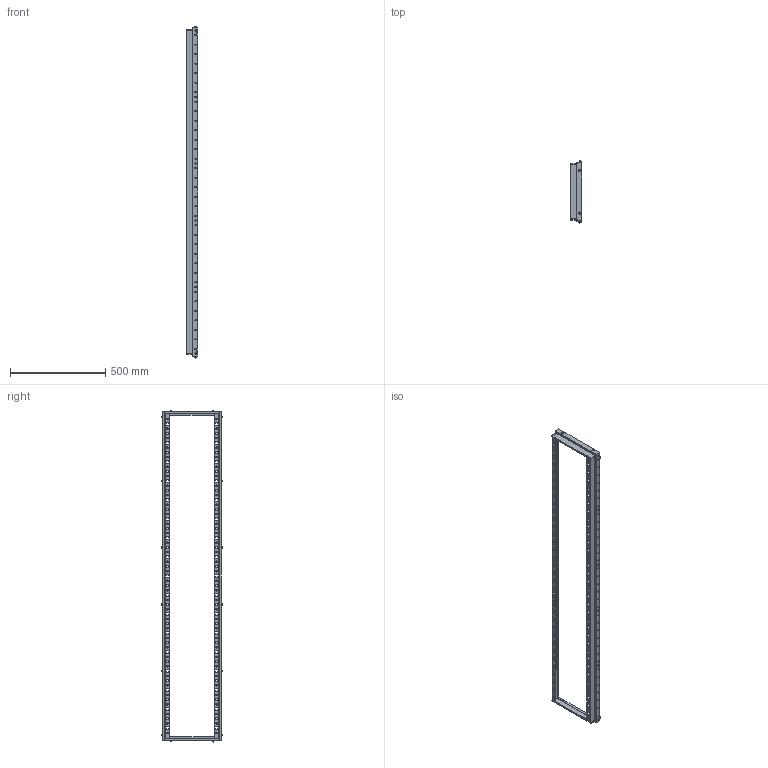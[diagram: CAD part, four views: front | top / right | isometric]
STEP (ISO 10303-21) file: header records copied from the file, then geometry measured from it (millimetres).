
FILE_DESCRIPTION (( 'STEP AP214' ), '1' );
FILE_NAME ('FO-00-UVF-180-040 Ðàìà äëÿ ïëàñòðîíîâ 1800õ400.STEP', '2025-09-24T10:13:53', ( '' ), ( '' ), 'SwSTEP 2.0', 'SolidWorks 2023', '' );
FILE_SCHEMA (( 'AUTOMOTIVE_DESIGN' ));
Length unit declared in the file: millimetre
Products named in the file (1): FO-00-UVF-180-040 Рама для пластронов 1800х400
Bounding box: 60.8 x 325 x 1746 mm (x, y, z)
Volume: 627530.3 mm3; surface area: 745725 mm2
Topology: 1 solids, 1 shells, 1062 faces, 3047 edges, 2011 vertices
Faces by surface type: cylinder 516, plane 490, cone 24, sphere 24, torus 8
Entity records: 36062 total; most frequent: CARTESIAN_POINT 6925, ORIENTED_EDGE 6094, DIRECTION 5885, EDGE_CURVE 3047, VERTEX_POINT 2011, AXIS2_PLACEMENT_3D 1979, VECTOR 1927, LINE 1927
